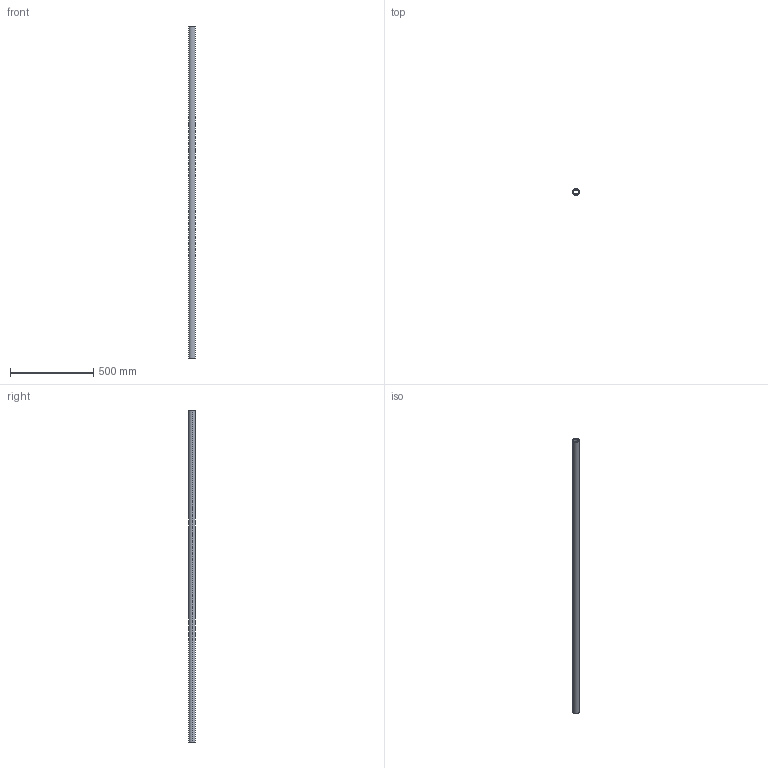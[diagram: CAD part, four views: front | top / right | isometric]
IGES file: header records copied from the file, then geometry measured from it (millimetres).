
Start section: SolidWorks IGES file using analytic representation for surfaces
Global section: file name: C:\Users\IanO\Desktop\L1771_v2\L1771.40_v2\L1771.40_v2_20230705_IGES\L1771.40-2000.igs; native system: SolidWorks 2019; preprocessor: SolidWorks 2019; author: IanO; date: 230705.160952; units: millimetre
Bounding box: 40 x 40 x 2000 mm (x, y, z)
Surface area: 428538.4 mm2 (no closed solid volume)
Topology: 0 solids, 0 shells, 6 faces, 272 edges, 272 vertices
Faces by surface type: revolution 4, bspline 2
